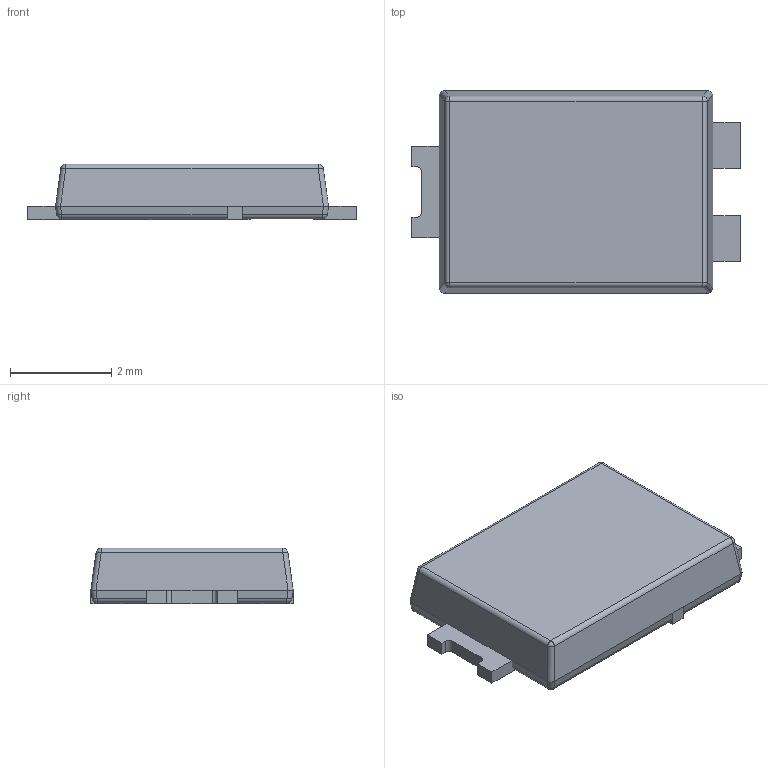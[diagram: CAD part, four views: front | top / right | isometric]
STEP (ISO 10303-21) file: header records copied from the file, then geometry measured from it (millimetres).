
FILE_DESCRIPTION(/* description */ ('Unknown'),/* implementation_level */ '2;1');
FILE_NAME(/* name */ 'TO-277A',/* time_stamp */ '2023-10-04T13:23:36+08:00',/* author */ ('Unknown'),/* organization */ ('Unknown'),/* preprocessor_version */ 'ST-DEVELOPER v18.104',/* originating_system */ 'Solid Edge',/* authorisation */ 'Unknown');
FILE_SCHEMA (('AUTOMOTIVE_DESIGN {1 0 10303 214 3 1 1}'));
Length unit declared in the file: millimetre
Products named in the file (1): TO-277A
Bounding box: 6.5 x 4 x 1.1 mm (x, y, z)
Volume: 26.1 mm3; surface area: 93.8 mm2
Topology: 4 solids, 4 shells, 74 faces, 174 edges, 100 vertices
Faces by surface type: plane 48, cylinder 18, sphere 8
Entity records: 2052 total; most frequent: DIRECTION 348, CARTESIAN_POINT 341, ORIENTED_EDGE 332, EDGE_CURVE 166, LINE 134, VECTOR 134, AXIS2_PLACEMENT_3D 107, VERTEX_POINT 100
